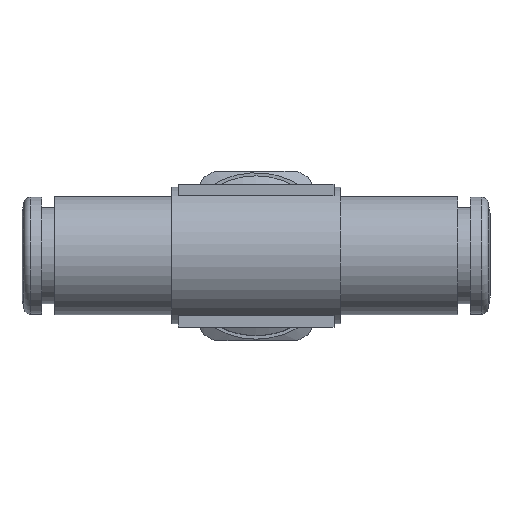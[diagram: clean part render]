
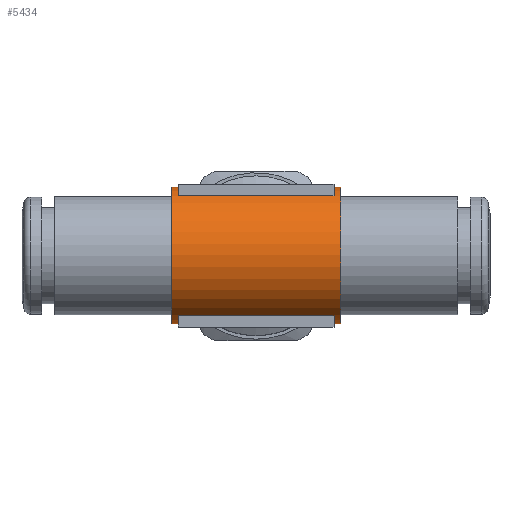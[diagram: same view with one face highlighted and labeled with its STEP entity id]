
A CAD part, top view. The second image highlights one B-rep face of the part: STEP entity #5434.
In plain terms, the highlighted cylindrical face has radius 5.25 mm (diameter 10.5 mm), a full revolution.
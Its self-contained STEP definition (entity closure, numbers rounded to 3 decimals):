
#10=ELLIPSE('',#5252,7.425,5.25);
#11=ELLIPSE('',#5255,7.425,5.25);
#1127=VECTOR('',#3619,1.);
#1128=VECTOR('',#3622,1.);
#1129=VECTOR('',#3625,1.);
#1130=VECTOR('',#3628,1.);
#1131=VECTOR('',#3631,1.);
#1132=VECTOR('',#3634,1.);
#1181=LINE('',#4882,#1127);
#1182=LINE('',#4886,#1128);
#1183=LINE('',#4890,#1129);
#1184=LINE('',#4894,#1130);
#1185=LINE('',#4898,#1131);
#1186=LINE('',#4901,#1132);
#1482=ORIENTED_EDGE('',*,*,#2018,.F.);
#1483=ORIENTED_EDGE('',*,*,#2019,.T.);
#1484=ORIENTED_EDGE('',*,*,#2020,.F.);
#1485=ORIENTED_EDGE('',*,*,#2021,.F.);
#1486=ORIENTED_EDGE('',*,*,#2022,.F.);
#1487=ORIENTED_EDGE('',*,*,#2023,.F.);
#1488=ORIENTED_EDGE('',*,*,#2024,.F.);
#1489=ORIENTED_EDGE('',*,*,#2025,.F.);
#1490=ORIENTED_EDGE('',*,*,#2026,.F.);
#1491=ORIENTED_EDGE('',*,*,#2027,.F.);
#1492=ORIENTED_EDGE('',*,*,#2028,.F.);
#1493=ORIENTED_EDGE('',*,*,#2029,.F.);
#1494=ORIENTED_EDGE('',*,*,#2030,.F.);
#1495=ORIENTED_EDGE('',*,*,#2031,.F.);
#1734=CIRCLE('',#5247,5.25);
#1735=CIRCLE('',#5249,5.25);
#1736=CIRCLE('',#5250,5.25);
#1737=CIRCLE('',#5251,5.25);
#1738=CIRCLE('',#5253,5.25);
#1739=CIRCLE('',#5254,5.25);
#1855=VERTEX_POINT('',#4873);
#1856=VERTEX_POINT('',#4876);
#1857=VERTEX_POINT('',#4878);
#1858=VERTEX_POINT('',#4879);
#1859=VERTEX_POINT('',#4881);
#1860=VERTEX_POINT('',#4883);
#1861=VERTEX_POINT('',#4885);
#1862=VERTEX_POINT('',#4887);
#1863=VERTEX_POINT('',#4889);
#1864=VERTEX_POINT('',#4891);
#1865=VERTEX_POINT('',#4893);
#1866=VERTEX_POINT('',#4895);
#1867=VERTEX_POINT('',#4897);
#1868=VERTEX_POINT('',#4899);
#2018=EDGE_CURVE('',#1855,#1855,#1734,.T.);
#2019=EDGE_CURVE('',#1856,#1856,#1735,.T.);
#2020=EDGE_CURVE('',#1857,#1858,#1736,.T.);
#2021=EDGE_CURVE('',#1859,#1857,#1181,.T.);
#2022=EDGE_CURVE('',#1860,#1859,#1737,.T.);
#2023=EDGE_CURVE('',#1861,#1860,#1182,.T.);
#2024=EDGE_CURVE('',#1862,#1861,#10,.T.);
#2025=EDGE_CURVE('',#1863,#1862,#1183,.T.);
#2026=EDGE_CURVE('',#1864,#1863,#1738,.T.);
#2027=EDGE_CURVE('',#1865,#1864,#1184,.T.);
#2028=EDGE_CURVE('',#1866,#1865,#1739,.T.);
#2029=EDGE_CURVE('',#1867,#1866,#1185,.T.);
#2030=EDGE_CURVE('',#1868,#1867,#11,.T.);
#2031=EDGE_CURVE('',#1858,#1868,#1186,.T.);
#2200=EDGE_LOOP('',(#1482));
#2201=EDGE_LOOP('',(#1483));
#2202=EDGE_LOOP('',(#1484,#1485,#1486,#1487,#1488,#1489,#1490,#1491,#1492,
#1493,#1494,#1495));
#2400=FACE_BOUND('',#2200,.T.);
#2401=FACE_BOUND('',#2201,.T.);
#2402=FACE_BOUND('',#2202,.T.);
#2534=CYLINDRICAL_SURFACE('',#5248,5.25);
#3611=DIRECTION('',(1.,0.,0.));
#3612=DIRECTION('',(0.,5.25,0.));
#3613=DIRECTION('',(-1.,0.,0.));
#3614=DIRECTION('',(0.,1.,0.));
#3615=DIRECTION('',(1.,0.,0.));
#3616=DIRECTION('',(0.,5.25,0.));
#3617=DIRECTION('',(1.,0.,0.));
#3618=DIRECTION('',(0.,2.5,4.617));
#3619=DIRECTION('',(-12.,0.,0.));
#3620=DIRECTION('',(-1.,0.,0.));
#3621=DIRECTION('',(0.,-2.5,4.617));
#3622=DIRECTION('',(3.5,0.,0.));
#3623=DIRECTION('',(-0.707,-0.707,0.));
#3624=DIRECTION('',(0.707,-0.707,0.));
#3625=DIRECTION('',(-3.5,0.,0.));
#3626=DIRECTION('',(-1.,0.,0.));
#3627=DIRECTION('',(0.,2.5,-4.617));
#3628=DIRECTION('',(12.,0.,0.));
#3629=DIRECTION('',(1.,0.,0.));
#3630=DIRECTION('',(0.,-2.5,-4.617));
#3631=DIRECTION('',(-3.5,0.,0.));
#3632=DIRECTION('',(0.707,-0.707,0.));
#3633=DIRECTION('',(-0.707,-0.707,0.));
#3634=DIRECTION('',(3.5,0.,0.));
#4873=CARTESIAN_POINT('',(35.214,41.487,0.));
#4874=CARTESIAN_POINT('',(35.214,36.237,0.));
#4875=CARTESIAN_POINT('',(35.214,36.237,0.));
#4876=CARTESIAN_POINT('',(22.214,41.487,0.));
#4877=CARTESIAN_POINT('',(22.214,36.237,0.));
#4878=CARTESIAN_POINT('',(22.714,38.737,4.617));
#4879=CARTESIAN_POINT('',(22.714,33.737,4.617));
#4880=CARTESIAN_POINT('',(22.714,36.237,0.));
#4881=CARTESIAN_POINT('',(34.714,38.737,4.617));
#4882=CARTESIAN_POINT('',(34.714,38.737,4.617));
#4883=CARTESIAN_POINT('',(34.714,33.737,4.617));
#4884=CARTESIAN_POINT('',(34.714,36.237,0.));
#4885=CARTESIAN_POINT('',(31.214,33.737,4.617));
#4886=CARTESIAN_POINT('',(31.214,33.737,4.617));
#4887=CARTESIAN_POINT('',(31.214,33.737,-4.617));
#4888=CARTESIAN_POINT('',(28.714,36.237,0.));
#4889=CARTESIAN_POINT('',(34.714,33.737,-4.617));
#4890=CARTESIAN_POINT('',(34.714,33.737,-4.617));
#4891=CARTESIAN_POINT('',(34.714,38.737,-4.617));
#4892=CARTESIAN_POINT('',(34.714,36.237,0.));
#4893=CARTESIAN_POINT('',(22.714,38.737,-4.617));
#4894=CARTESIAN_POINT('',(22.714,38.737,-4.617));
#4895=CARTESIAN_POINT('',(22.714,33.737,-4.617));
#4896=CARTESIAN_POINT('',(22.714,36.237,0.));
#4897=CARTESIAN_POINT('',(26.214,33.737,-4.617));
#4898=CARTESIAN_POINT('',(26.214,33.737,-4.617));
#4899=CARTESIAN_POINT('',(26.214,33.737,4.617));
#4900=CARTESIAN_POINT('',(28.714,36.237,0.));
#4901=CARTESIAN_POINT('',(22.714,33.737,4.617));
#5247=AXIS2_PLACEMENT_3D('',#4874,#3611,#3612);
#5248=AXIS2_PLACEMENT_3D('',#4875,#3613,#3614);
#5249=AXIS2_PLACEMENT_3D('',#4877,#3615,#3616);
#5250=AXIS2_PLACEMENT_3D('',#4880,#3617,#3618);
#5251=AXIS2_PLACEMENT_3D('',#4884,#3620,#3621);
#5252=AXIS2_PLACEMENT_3D('',#4888,#3623,#3624);
#5253=AXIS2_PLACEMENT_3D('',#4892,#3626,#3627);
#5254=AXIS2_PLACEMENT_3D('',#4896,#3629,#3630);
#5255=AXIS2_PLACEMENT_3D('',#4900,#3632,#3633);
#5434=ADVANCED_FACE('',(#2400,#2401,#2402),#2534,.T.);
